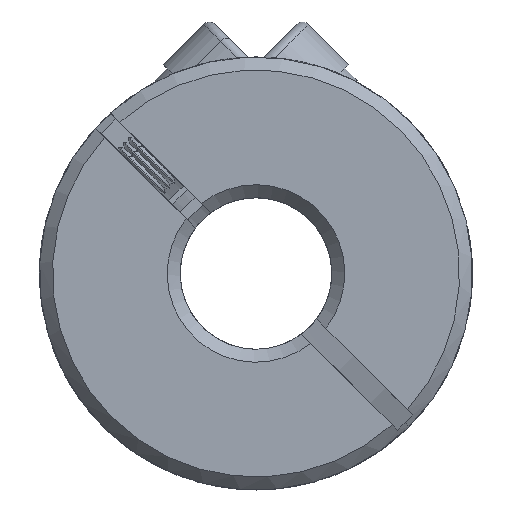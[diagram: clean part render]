
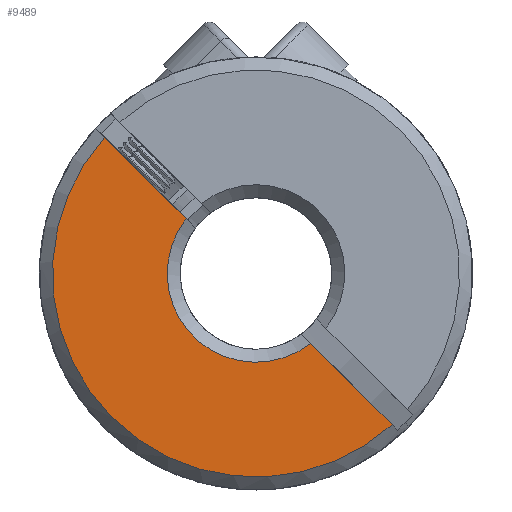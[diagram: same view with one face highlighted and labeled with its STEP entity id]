
A CAD part, front view. The second image highlights one B-rep face of the part: STEP entity #9489.
In plain terms, the highlighted planar face has unit normal (0, -1, 0).
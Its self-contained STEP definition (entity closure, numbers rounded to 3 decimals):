
#407 = EDGE_CURVE ( 'NONE', #11982, #12581, #9277, .T. ) ;
#822 = AXIS2_PLACEMENT_3D ( 'NONE', #5792, #13798, #9185 ) ;
#1807 = DIRECTION ( 'NONE',  ( -0.707, 0., 0.707 ) ) ;
#2305 = EDGE_CURVE ( 'NONE', #5255, #11982, #4287, .T. ) ;
#2386 = CARTESIAN_POINT ( 'NONE',  ( 6.284, -11.2, -6.991 ) ) ;
#2555 = EDGE_CURVE ( 'NONE', #10338, #5255, #3197, .T. ) ;
#2617 = DIRECTION ( 'NONE',  ( -0.707, 0., 0.707 ) ) ;
#2667 = PLANE ( 'NONE',  #3457 ) ;
#3197 = CIRCLE ( 'NONE', #822, 9.4 ) ;
#3457 = AXIS2_PLACEMENT_3D ( 'NONE', #8335, #8234, #2617 ) ;
#3473 = DIRECTION ( 'NONE',  ( -0.707, 0., 0.707 ) ) ;
#3565 = CARTESIAN_POINT ( 'NONE',  ( 0., -11.2, 0. ) ) ;
#4052 = LINE ( 'NONE', #4597, #14917 ) ;
#4078 = CARTESIAN_POINT ( 'NONE',  ( -8.839, -11.2, 8.132 ) ) ;
#4287 = LINE ( 'NONE', #4078, #12804 ) ;
#4597 = CARTESIAN_POINT ( 'NONE',  ( 0.205, -11.2, -0.912 ) ) ;
#5255 = VERTEX_POINT ( 'NONE', #2386 ) ;
#5792 = CARTESIAN_POINT ( 'NONE',  ( 0., -11.2, 0. ) ) ;
#6622 = ORIENTED_EDGE ( 'NONE', *, *, #2555, .T. ) ;
#6953 = DIRECTION ( 'NONE',  ( 0., 1., 0. ) ) ;
#7533 = FACE_OUTER_BOUND ( 'NONE', #14753, .T. ) ;
#7866 = CARTESIAN_POINT ( 'NONE',  ( -3.231, -11.2, 2.524 ) ) ;
#8234 = DIRECTION ( 'NONE',  ( 0., -1., 0. ) ) ;
#8335 = CARTESIAN_POINT ( 'NONE',  ( 45.083, -11.2, 25.627 ) ) ;
#9185 = DIRECTION ( 'NONE',  ( -0.707, 0., 0.707 ) ) ;
#9277 = CIRCLE ( 'NONE', #13896, 4.1 ) ;
#9489 = ADVANCED_FACE ( 'NONE', ( #7533 ), #2667, .T. ) ;
#10338 = VERTEX_POINT ( 'NONE', #13525 ) ;
#10388 = EDGE_CURVE ( 'NONE', #12581, #10338, #4052, .T. ) ;
#10554 = ORIENTED_EDGE ( 'NONE', *, *, #407, .T. ) ;
#11982 = VERTEX_POINT ( 'NONE', #14276 ) ;
#12581 = VERTEX_POINT ( 'NONE', #7866 ) ;
#12804 = VECTOR ( 'NONE', #1807, 1000. ) ;
#13525 = CARTESIAN_POINT ( 'NONE',  ( -6.991, -11.2, 6.284 ) ) ;
#13666 = ORIENTED_EDGE ( 'NONE', *, *, #10388, .T. ) ;
#13798 = DIRECTION ( 'NONE',  ( 0., -1., 0. ) ) ;
#13816 = DIRECTION ( 'NONE',  ( -0.707, 0., 0.707 ) ) ;
#13896 = AXIS2_PLACEMENT_3D ( 'NONE', #3565, #6953, #3473 ) ;
#14051 = ORIENTED_EDGE ( 'NONE', *, *, #2305, .T. ) ;
#14276 = CARTESIAN_POINT ( 'NONE',  ( 2.524, -11.2, -3.231 ) ) ;
#14753 = EDGE_LOOP ( 'NONE', ( #13666, #6622, #14051, #10554 ) ) ;
#14917 = VECTOR ( 'NONE', #13816, 1000. ) ;
